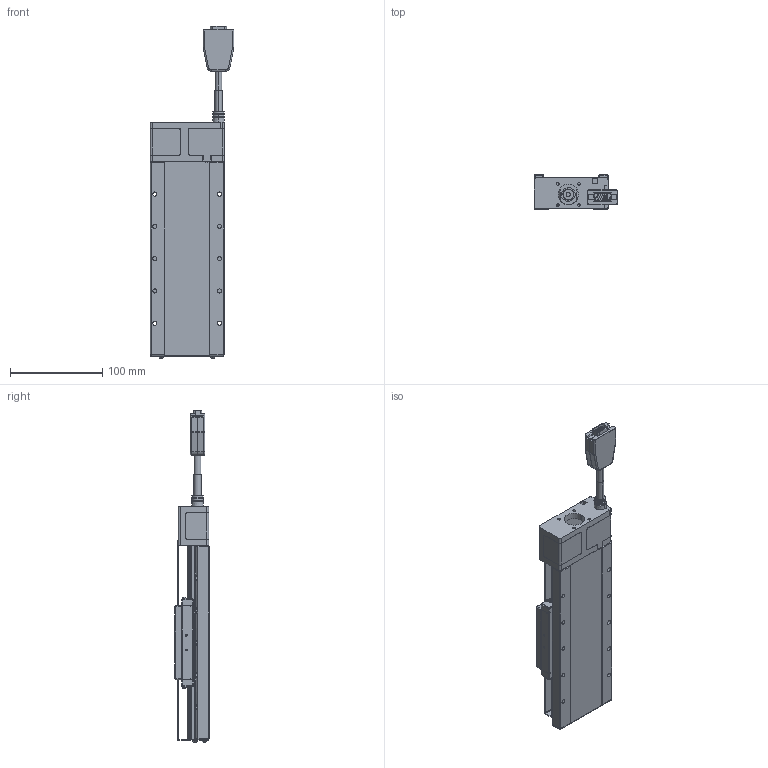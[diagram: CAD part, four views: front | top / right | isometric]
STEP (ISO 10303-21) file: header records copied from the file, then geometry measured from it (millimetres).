
FILE_DESCRIPTION (( 'STEP AP203' ), '1' );
FILE_NAME ('CXC80100-S2?N(µL°¨¹F).S', '2024-01-05T05:28:28', ( '' ), ( '' ), 'SwSTEP 2.0', 'SolidWorks 2019', '' );
FILE_SCHEMA (( 'CONFIG_CONTROL_DESIGN' ));
Length unit declared in the file: millimetre
Products named in the file (9): CXC80100-S2OPAN-303; Group2^CXC80100-S2?N(28框無馬達)_defeature_GMT; CXC80100-S2?N(無馬達); SD03B006_SD03B006-SCM435(化鎳); SC04B006_SCM435(化鎳); CXN80100-02(2023新版)-1^CXC80100-S2?N(28框無馬達)_defeature_GMT; CXC80-102; SG02B005_SCM435(化鎳); Group1^CXC80100-S2?N(28框無馬達)_defeature_GMT
Assembly tree (16 placements, depth 2):
  CXC80100-S2?N(無馬達)
    Group1^CXC80100-S2?N(28框無馬達)_defeature_GMT
    Group2^CXC80100-S2?N(28框無馬達)_defeature_GMT
    CXN80100-02(2023新版)-1^CXC80100-S2?N(28框無馬達)_defeature_GMT
    CXC80100-S2OPAN-303
    SD03B006_SD03B006-SCM435(化鎳)  x4
    CXC80-102  x2
    SC04B006_SCM435(化鎳)  x4
    SG02B005_SCM435(化鎳)  x2
Bounding box: 90.5 x 37 x 359.75 mm (x, y, z)
Volume: 87109.7 mm3; surface area: 169393.5 mm2
Topology: 31 solids, 35 shells, 4176 faces, 10485 edges, 6337 vertices
Faces by surface type: plane 1517, cylinder 1335, cone 548, torus 294, bspline 280, sphere 202
Entity records: 128565 total; most frequent: CARTESIAN_POINT 34486, DIRECTION 20157, ORIENTED_EDGE 19280, EDGE_CURVE 9640, AXIS2_PLACEMENT_3D 7685, VERTEX_POINT 5918, LINE 4787, VECTOR 4787
